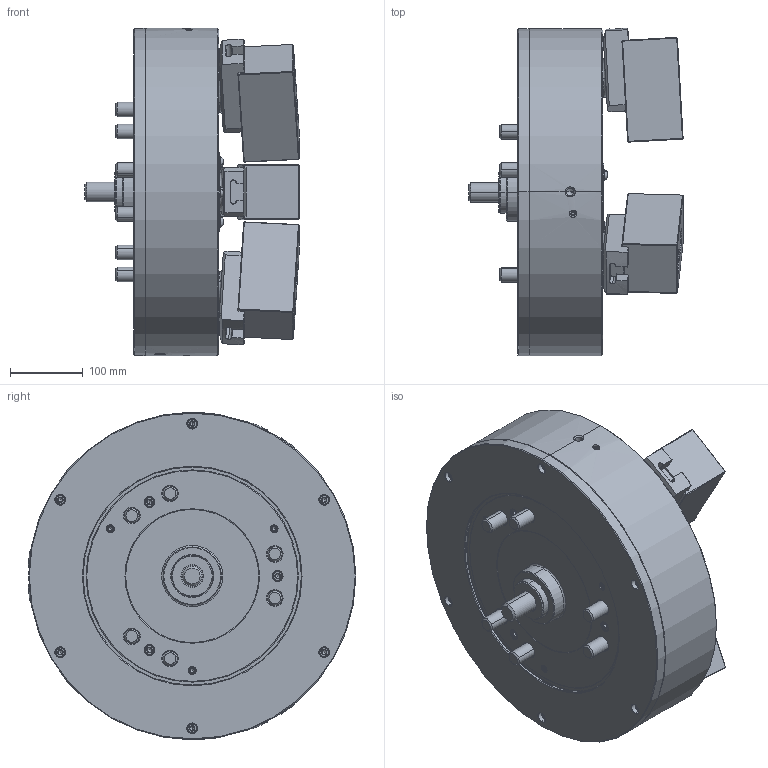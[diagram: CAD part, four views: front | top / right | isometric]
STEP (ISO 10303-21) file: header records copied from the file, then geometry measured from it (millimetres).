
FILE_DESCRIPTION (( 'STEP AP214' ), '1' );
FILE_NAME ('PW-18_UC_OD.STEP', '2024-02-07T06:54:37', ( '' ), ( '' ), 'SwSTEP 2.0', 'SolidWorks 2022', '' );
FILE_SCHEMA (( 'AUTOMOTIVE_DESIGN' ));
Length unit declared in the file: millimetre
Products named in the file (9): 0030120120; 0030120030; 61P422878; 0033108012; 0030127150; PW-18_結合_OD; 61P422887; PW-18_UC_OD; 61P326096
Assembly tree (24 placements, depth 2):
  PW-18_UC_OD
    61P422887
    61P326096  x3
    61P422878  x3
    0030120030  x6
    0030120120  x6
    0030127150
    0033108012  x3
    PW-18_結合_OD
Bounding box: 294.68 x 450.61 x 450 mm (x, y, z)
Volume: 21086360.5 mm3; surface area: 1020310.9 mm2
Topology: 24 solids, 27 shells, 3956 faces, 10330 edges, 6697 vertices
Faces by surface type: plane 1961, bspline 960, cone 554, cylinder 441, torus 32, sphere 8
Entity records: 144782 total; most frequent: CARTESIAN_POINT 62923, ORIENTED_EDGE 18740, DIRECTION 13223, EDGE_CURVE 9370, VERTEX_POINT 6137, LINE 5567, VECTOR 5567, EDGE_LOOP 3903
